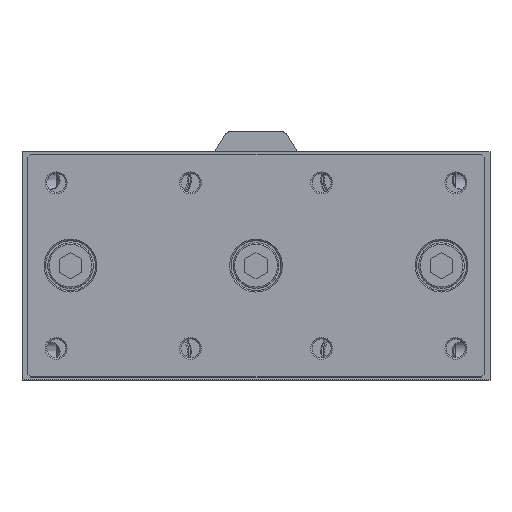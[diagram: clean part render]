
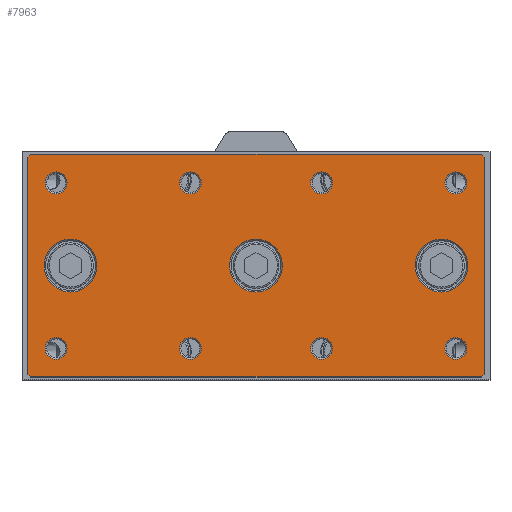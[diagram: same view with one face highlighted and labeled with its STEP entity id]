
A CAD part, top view. The second image highlights one B-rep face of the part: STEP entity #7963.
In plain terms, the highlighted planar face has unit normal (0, 0, 1).
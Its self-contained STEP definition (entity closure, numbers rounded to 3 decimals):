
#7745=CARTESIAN_POINT('',(-78.641,-40.316,125.5));
#7746=VERTEX_POINT('',#7745);
#7747=CARTESIAN_POINT('',(-79.641,-39.316,125.5));
#7748=VERTEX_POINT('',#7747);
#7749=CARTESIAN_POINT('',(-78.641,-40.316,125.5));
#7750=DIRECTION('',(-0.707,0.707,0.0));
#7751=VECTOR('',#7750,1.414);
#7752=LINE('',#7749,#7751);
#7753=EDGE_CURVE('',#7746,#7748,#7752,.T.);
#7780=CARTESIAN_POINT('',(0.359,-1.316,125.5));
#7781=DIRECTION('',(0.0,0.0,1.0));
#7782=DIRECTION('',(1.0,0.0,0.0));
#7783=AXIS2_PLACEMENT_3D('',#7780,#7781,#7782);
#7784=PLANE('',#7783);
#7785=ORIENTED_EDGE('',*,*,#7753,.F.);
#7786=CARTESIAN_POINT('',(79.359,-40.316,125.5));
#7787=VERTEX_POINT('',#7786);
#7788=CARTESIAN_POINT('',(79.359,-40.316,125.5));
#7789=DIRECTION('',(-1.0,0.0,0.0));
#7790=VECTOR('',#7789,158.0);
#7791=LINE('',#7788,#7790);
#7792=EDGE_CURVE('',#7787,#7746,#7791,.T.);
#7793=ORIENTED_EDGE('',*,*,#7792,.F.);
#7794=CARTESIAN_POINT('',(80.359,-39.316,125.5));
#7795=VERTEX_POINT('',#7794);
#7796=CARTESIAN_POINT('',(80.359,-39.316,125.5));
#7797=DIRECTION('',(-0.707,-0.707,0.0));
#7798=VECTOR('',#7797,1.414);
#7799=LINE('',#7796,#7798);
#7800=EDGE_CURVE('',#7795,#7787,#7799,.T.);
#7801=ORIENTED_EDGE('',*,*,#7800,.F.);
#7802=CARTESIAN_POINT('',(80.359,36.684,125.5));
#7803=VERTEX_POINT('',#7802);
#7804=CARTESIAN_POINT('',(80.359,36.684,125.5));
#7805=DIRECTION('',(0.0,-1.0,0.0));
#7806=VECTOR('',#7805,76.);
#7807=LINE('',#7804,#7806);
#7808=EDGE_CURVE('',#7803,#7795,#7807,.T.);
#7809=ORIENTED_EDGE('',*,*,#7808,.F.);
#7810=CARTESIAN_POINT('',(79.359,37.684,125.5));
#7811=VERTEX_POINT('',#7810);
#7812=CARTESIAN_POINT('',(79.359,37.684,125.5));
#7813=DIRECTION('',(0.707,-0.707,0.0));
#7814=VECTOR('',#7813,1.414);
#7815=LINE('',#7812,#7814);
#7816=EDGE_CURVE('',#7811,#7803,#7815,.T.);
#7817=ORIENTED_EDGE('',*,*,#7816,.F.);
#7818=CARTESIAN_POINT('',(-78.641,37.684,125.5));
#7819=VERTEX_POINT('',#7818);
#7820=CARTESIAN_POINT('',(-78.641,37.684,125.5));
#7821=DIRECTION('',(1.0,0.0,0.0));
#7822=VECTOR('',#7821,158.0);
#7823=LINE('',#7820,#7822);
#7824=EDGE_CURVE('',#7819,#7811,#7823,.T.);
#7825=ORIENTED_EDGE('',*,*,#7824,.F.);
#7826=CARTESIAN_POINT('',(-79.641,36.684,125.5));
#7827=VERTEX_POINT('',#7826);
#7828=CARTESIAN_POINT('',(-79.641,36.684,125.5));
#7829=DIRECTION('',(0.707,0.707,0.0));
#7830=VECTOR('',#7829,1.414);
#7831=LINE('',#7828,#7830);
#7832=EDGE_CURVE('',#7827,#7819,#7831,.T.);
#7833=ORIENTED_EDGE('',*,*,#7832,.F.);
#7834=CARTESIAN_POINT('',(-79.641,-39.316,125.5));
#7835=DIRECTION('',(0.0,1.0,0.0));
#7836=VECTOR('',#7835,76.0);
#7837=LINE('',#7834,#7836);
#7838=EDGE_CURVE('',#7748,#7827,#7837,.T.);
#7839=ORIENTED_EDGE('',*,*,#7838,.F.);
#7840=EDGE_LOOP('',(#7785,#7793,#7801,#7809,#7817,#7825,#7833,#7839));
#7841=FACE_OUTER_BOUND('',#7840,.T.);
#7842=CARTESIAN_POINT('',(-65.818,27.684,125.5));
#7843=VERTEX_POINT('',#7842);
#7844=CARTESIAN_POINT('',(-69.641,27.684,125.5));
#7845=DIRECTION('',(0.0,0.0,1.0));
#7846=DIRECTION('',(-1.0,0.0,0.0));
#7847=AXIS2_PLACEMENT_3D('',#7844,#7845,#7846);
#7848=CIRCLE('',#7847,3.823);
#7849=EDGE_CURVE('',#7843,#7843,#7848,.T.);
#7850=ORIENTED_EDGE('',*,*,#7849,.F.);
#7851=EDGE_LOOP('',(#7850));
#7852=FACE_BOUND('',#7851,.T.);
#7853=CARTESIAN_POINT('',(-18.818,27.684,125.5));
#7854=VERTEX_POINT('',#7853);
#7855=CARTESIAN_POINT('',(-22.641,27.684,125.5));
#7856=DIRECTION('',(0.0,0.0,1.0));
#7857=DIRECTION('',(-1.0,0.0,0.0));
#7858=AXIS2_PLACEMENT_3D('',#7855,#7856,#7857);
#7859=CIRCLE('',#7858,3.823);
#7860=EDGE_CURVE('',#7854,#7854,#7859,.T.);
#7861=ORIENTED_EDGE('',*,*,#7860,.F.);
#7862=EDGE_LOOP('',(#7861));
#7863=FACE_BOUND('',#7862,.T.);
#7864=CARTESIAN_POINT('',(9.609,-1.316,125.5));
#7865=VERTEX_POINT('',#7864);
#7866=CARTESIAN_POINT('',(0.359,-1.316,125.5));
#7867=DIRECTION('',(0.0,0.0,1.0));
#7868=DIRECTION('',(-1.0,0.0,0.0));
#7869=AXIS2_PLACEMENT_3D('',#7866,#7867,#7868);
#7870=CIRCLE('',#7869,9.25);
#7871=EDGE_CURVE('',#7865,#7865,#7870,.T.);
#7872=ORIENTED_EDGE('',*,*,#7871,.F.);
#7873=EDGE_LOOP('',(#7872));
#7874=FACE_BOUND('',#7873,.T.);
#7875=CARTESIAN_POINT('',(74.609,-1.316,125.5));
#7876=VERTEX_POINT('',#7875);
#7877=CARTESIAN_POINT('',(65.359,-1.316,125.5));
#7878=DIRECTION('',(0.0,0.0,1.0));
#7879=DIRECTION('',(-1.0,0.0,0.0));
#7880=AXIS2_PLACEMENT_3D('',#7877,#7878,#7879);
#7881=CIRCLE('',#7880,9.25);
#7882=EDGE_CURVE('',#7876,#7876,#7881,.T.);
#7883=ORIENTED_EDGE('',*,*,#7882,.F.);
#7884=EDGE_LOOP('',(#7883));
#7885=FACE_BOUND('',#7884,.T.);
#7886=CARTESIAN_POINT('',(-55.391,-1.316,125.5));
#7887=VERTEX_POINT('',#7886);
#7888=CARTESIAN_POINT('',(-64.641,-1.316,125.5));
#7889=DIRECTION('',(0.0,0.0,1.0));
#7890=DIRECTION('',(-1.0,0.0,0.0));
#7891=AXIS2_PLACEMENT_3D('',#7888,#7889,#7890);
#7892=CIRCLE('',#7891,9.25);
#7893=EDGE_CURVE('',#7887,#7887,#7892,.T.);
#7894=ORIENTED_EDGE('',*,*,#7893,.F.);
#7895=EDGE_LOOP('',(#7894));
#7896=FACE_BOUND('',#7895,.T.);
#7897=CARTESIAN_POINT('',(74.182,-30.316,125.5));
#7898=VERTEX_POINT('',#7897);
#7899=CARTESIAN_POINT('',(70.359,-30.316,125.5));
#7900=DIRECTION('',(0.0,0.0,1.0));
#7901=DIRECTION('',(-1.0,0.0,0.0));
#7902=AXIS2_PLACEMENT_3D('',#7899,#7900,#7901);
#7903=CIRCLE('',#7902,3.823);
#7904=EDGE_CURVE('',#7898,#7898,#7903,.T.);
#7905=ORIENTED_EDGE('',*,*,#7904,.F.);
#7906=EDGE_LOOP('',(#7905));
#7907=FACE_BOUND('',#7906,.T.);
#7908=CARTESIAN_POINT('',(-65.818,-30.316,125.5));
#7909=VERTEX_POINT('',#7908);
#7910=CARTESIAN_POINT('',(-69.641,-30.316,125.5));
#7911=DIRECTION('',(0.0,0.0,1.0));
#7912=DIRECTION('',(-1.0,0.0,0.0));
#7913=AXIS2_PLACEMENT_3D('',#7910,#7911,#7912);
#7914=CIRCLE('',#7913,3.823);
#7915=EDGE_CURVE('',#7909,#7909,#7914,.T.);
#7916=ORIENTED_EDGE('',*,*,#7915,.F.);
#7917=EDGE_LOOP('',(#7916));
#7918=FACE_BOUND('',#7917,.T.);
#7919=CARTESIAN_POINT('',(74.182,27.684,125.5));
#7920=VERTEX_POINT('',#7919);
#7921=CARTESIAN_POINT('',(70.359,27.684,125.5));
#7922=DIRECTION('',(0.0,0.0,1.0));
#7923=DIRECTION('',(-1.0,0.0,0.0));
#7924=AXIS2_PLACEMENT_3D('',#7921,#7922,#7923);
#7925=CIRCLE('',#7924,3.823);
#7926=EDGE_CURVE('',#7920,#7920,#7925,.T.);
#7927=ORIENTED_EDGE('',*,*,#7926,.F.);
#7928=EDGE_LOOP('',(#7927));
#7929=FACE_BOUND('',#7928,.T.);
#7930=CARTESIAN_POINT('',(27.182,-30.316,125.5));
#7931=VERTEX_POINT('',#7930);
#7932=CARTESIAN_POINT('',(23.359,-30.316,125.5));
#7933=DIRECTION('',(0.0,0.0,1.0));
#7934=DIRECTION('',(-1.0,0.0,0.0));
#7935=AXIS2_PLACEMENT_3D('',#7932,#7933,#7934);
#7936=CIRCLE('',#7935,3.824);
#7937=EDGE_CURVE('',#7931,#7931,#7936,.T.);
#7938=ORIENTED_EDGE('',*,*,#7937,.F.);
#7939=EDGE_LOOP('',(#7938));
#7940=FACE_BOUND('',#7939,.T.);
#7941=CARTESIAN_POINT('',(-18.818,-30.316,125.5));
#7942=VERTEX_POINT('',#7941);
#7943=CARTESIAN_POINT('',(-22.641,-30.316,125.5));
#7944=DIRECTION('',(0.0,0.0,1.0));
#7945=DIRECTION('',(-1.0,0.0,0.0));
#7946=AXIS2_PLACEMENT_3D('',#7943,#7944,#7945);
#7947=CIRCLE('',#7946,3.823);
#7948=EDGE_CURVE('',#7942,#7942,#7947,.T.);
#7949=ORIENTED_EDGE('',*,*,#7948,.F.);
#7950=EDGE_LOOP('',(#7949));
#7951=FACE_BOUND('',#7950,.T.);
#7952=CARTESIAN_POINT('',(27.182,27.684,125.5));
#7953=VERTEX_POINT('',#7952);
#7954=CARTESIAN_POINT('',(23.359,27.684,125.5));
#7955=DIRECTION('',(0.0,0.0,1.0));
#7956=DIRECTION('',(-1.0,0.0,0.0));
#7957=AXIS2_PLACEMENT_3D('',#7954,#7955,#7956);
#7958=CIRCLE('',#7957,3.824);
#7959=EDGE_CURVE('',#7953,#7953,#7958,.T.);
#7960=ORIENTED_EDGE('',*,*,#7959,.F.);
#7961=EDGE_LOOP('',(#7960));
#7962=FACE_BOUND('',#7961,.T.);
#7963=ADVANCED_FACE('',(#7841,#7852,#7863,#7874,#7885,#7896,#7907,#7918,#7929,#7940,#7951,#7962),#7784,.T.);
